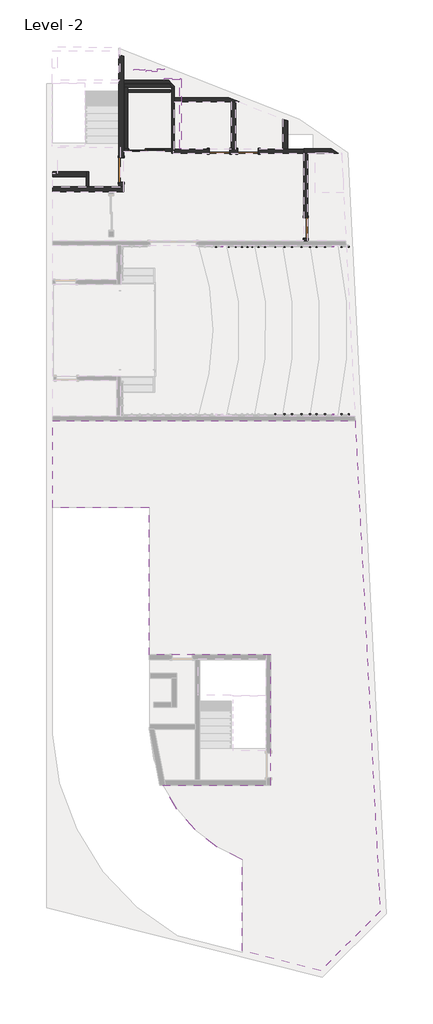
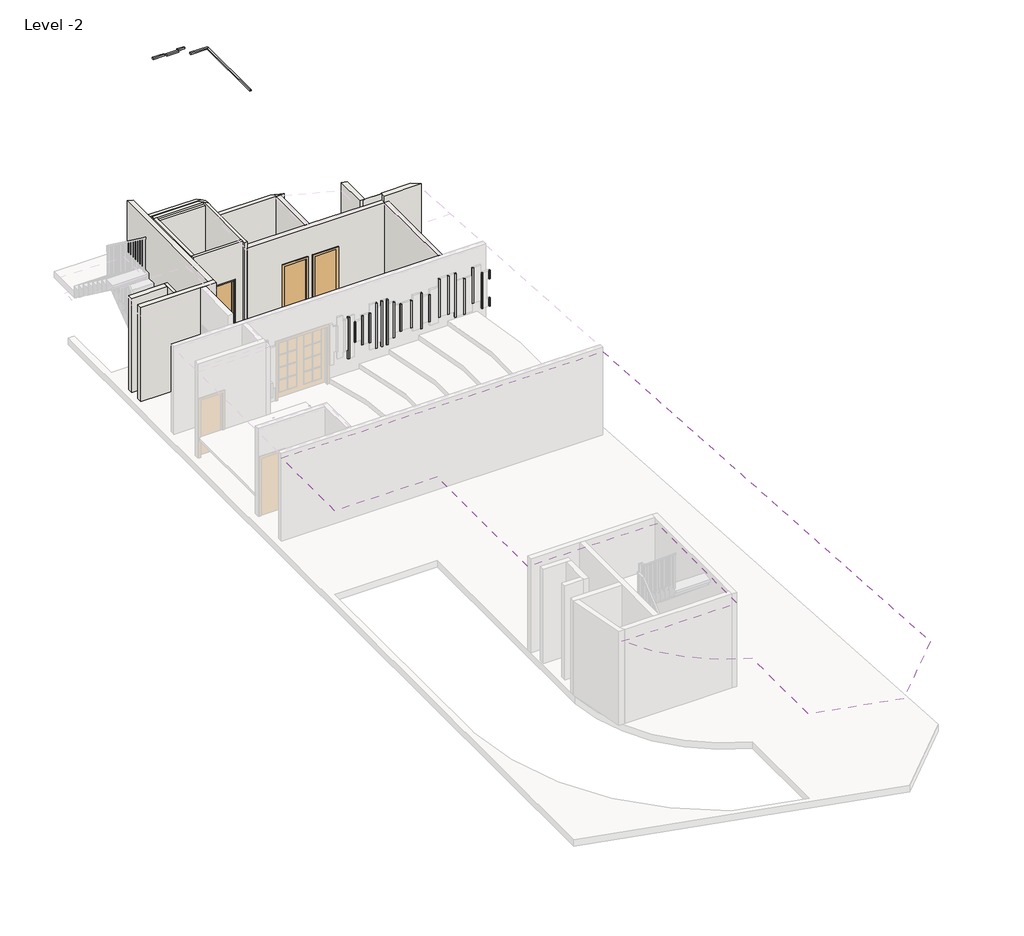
# One storey, part 4 of 6: 34 proxies, 17 walls, 5 doors, 1 covering.
"""IFC4 building model written with IfcOpenShell, lengths in millimetres."""

from ifc_helpers import new_model, si_unit, point, frame, frame_2d, origin, place, context, project, spatial, polyline, circle_curve, trimmed, segment, composite_curve, outline, extrude, faceted_brep, transform, mapped, element, save
from components import m_single_flush_0762_x_2134mm_6e0fa8c7, m_single_flush_0762_x_2134mm_89ae47f1, m_single_flush_0762_x_2134mm_1533e4c5, m_single_flush_0915_x_2134mm_5c733ab1, sliding_door_2_panel_aus_ee5771a8

model = new_model("IFC4")

# Units and contexts
model_context = context("Model", 3, world=origin())
ifc_project = project(units=[si_unit("LENGTHUNIT", "METRE", prefix="MILLI")], contexts=[model_context])

# Site, building, storey
site = spatial("IfcSite", under=ifc_project)
building = spatial("IfcBuilding", under=site)
storey = spatial("IfcBuildingStorey", under=building, Name="Level -2", Elevation=-7000.0)

# Proxies
placement = place(None, origin())
element("IfcBuildingElementProxy", 1, Name="Reveal", ObjectType="Reveal", at=placement, inside=storey, context=model_context, shape_type="SweptSolid", body=[
    extrude(outline(polyline([(2988.093022, 13051.3286894), (2988.093022, 13101.3286894), (3389.832395, 13101.3286894), (3389.832395, 13051.3286894), (2988.093022, 13051.3286894)])), frame((0.0, 0.0, 1910.8841872), z_axis=(0.0, 0.0, 1.0), x_axis=(1.0, 0.0, 0.0)), (0.0, 0.0, 1.0), 50.0),
])
element("IfcBuildingElementProxy", 2, Name="Reveal", ObjectType="Reveal", at=placement, inside=storey, context=model_context, shape_type="SweptSolid", body=[
    extrude(outline(polyline([(3439.832395, 13006.9409286), (3439.832395, 13056.9409286), (3860.156273, 13056.9409286), (3860.156273, 13006.9409286), (3439.832395, 13006.9409286)])), frame((0.0, 0.0, 1910.8841872), z_axis=(0.0, 0.0, 1.0), x_axis=(1.0, 0.0, 0.0)), (0.0, 0.0, 1.0), 50.0),
])
element("IfcBuildingElementProxy", 3, Name="Reveal", ObjectType="Reveal", at=placement, inside=storey, context=model_context, shape_type="SweptSolid", body=[
    extrude(outline(polyline([(3860.156273, 13071.3286894), (3860.156273, 13121.3286894), (4110.156273, 13121.3286894), (4110.156273, 13071.3286894), (3860.156273, 13071.3286894)])), frame((0.0, 0.0, 1910.8841872), z_axis=(0.0, 0.0, 1.0), x_axis=(1.0, 0.0, 0.0)), (0.0, 0.0, 1.0), 50.0),
])
element("IfcBuildingElementProxy", 4, Name="Reveal", ObjectType="Reveal", at=placement, inside=storey, context=model_context, shape_type="SweptSolid", body=[
    extrude(outline(polyline([(4110.156273, 12706.9436225), (4110.156273, 12756.9436225), (4720.156273, 12756.9436225), (4720.156273, 12706.9436225), (4110.156273, 12706.9436225)])), frame((0.0, 0.0, 1910.8841872), z_axis=(0.0, 0.0, 1.0), x_axis=(1.0, 0.0, 0.0)), (0.0, 0.0, 1.0), 50.0),
])
element("IfcBuildingElementProxy", 5, Name="Reveal", ObjectType="Reveal", at=placement, inside=storey, context=model_context, shape_type="SweptSolid", body=[
    extrude(outline(polyline([(4695.156273, 12731.9436225), (4745.156273, 12731.9436225), (4745.156273, 10131.7405588), (4695.156273, 10131.7405588), (4695.156273, 12731.9436225)])), frame((0.0, 0.0, 1905.8841872), z_axis=(0.0, 0.0, 1.0), x_axis=(1.0, 0.0, 0.0)), (0.0, 0.0, 1.0), 50.0),
])
element("IfcBuildingElementProxy", 6, Name="Reveal", ObjectType="Reveal", at=placement, inside=storey, context=model_context, shape_type="SweptSolid", body=[
    extrude(outline(polyline([(8232.3539947, 180.1293333), (8232.3539947, 230.1293333), (8282.3539947, 230.1293333), (8282.3539947, 180.1293333), (8232.3539947, 180.1293333)])), frame((0.0, 0.0, -5890.7275331), z_axis=(0.0, 0.0, 1.0), x_axis=(1.0, 0.0, 0.0)), (0.0, 0.0, 1.0), 1000.0),
])
element("IfcBuildingElementProxy", 7, Name="Reveal", ObjectType="Reveal", at=placement, inside=storey, context=model_context, shape_type="SweptSolid", body=[
    extrude(outline(polyline([(8577.0430077, 180.1293333), (8577.0430077, 230.1293333), (8627.0430077, 230.1293333), (8627.0430077, 180.1293333), (8577.0430077, 180.1293333)])), frame((0.0, 0.0, -6050.7275331), z_axis=(0.0, 0.0, 1.0), x_axis=(1.0, 0.0, 0.0)), (0.0, 0.0, 1.0), 1320.0),
])
element("IfcBuildingElementProxy", 8, Name="Reveal", ObjectType="Reveal", at=placement, inside=storey, context=model_context, shape_type="SweptSolid", body=[
    extrude(outline(polyline([(8857.0430077, 180.1293333), (8857.0430077, 230.1293333), (8907.0430077, 230.1293333), (8907.0430077, 180.1293333), (8857.0430077, 180.1293333)])), frame((0.0, 0.0, -5890.7275331), z_axis=(0.0, 0.0, 1.0), x_axis=(1.0, 0.0, 0.0)), (0.0, 0.0, 1.0), 1000.0),
])
element("IfcBuildingElementProxy", 9, Name="Reveal", ObjectType="Reveal", at=placement, inside=storey, context=model_context, shape_type="SweptSolid", body=[
    extrude(outline(polyline([(9532.3539947, 180.1293333), (9532.3539947, 230.1293333), (9582.3539947, 230.1293333), (9582.3539947, 180.1293333), (9532.3539947, 180.1293333)])), frame((0.0, 0.0, -5850.7275331), z_axis=(0.0, 0.0, 1.0), x_axis=(1.0, 0.0, 0.0)), (0.0, 0.0, 1.0), 1420.0),
])
element("IfcBuildingElementProxy", 10, Name="Reveal", ObjectType="Reveal", at=placement, inside=storey, context=model_context, shape_type="SweptSolid", body=[
    extrude(outline(polyline([(9212.3539947, 180.1293333), (9212.3539947, 230.1293333), (9262.3539947, 230.1293333), (9262.3539947, 180.1293333), (9212.3539947, 180.1293333)])), frame((0.0, 0.0, -5850.7275331), z_axis=(0.0, 0.0, 1.0), x_axis=(1.0, 0.0, 0.0)), (0.0, 0.0, 1.0), 1420.0),
])
element("IfcBuildingElementProxy", 11, Name="Reveal", ObjectType="Reveal", at=placement, inside=storey, context=model_context, shape_type="SweptSolid", body=[
    extrude(outline(polyline([(10392.3539947, 180.1293333), (10392.3539947, 230.1293333), (10442.3539947, 230.1293333), (10442.3539947, 180.1293333), (10392.3539947, 180.1293333)])), frame((0.0, 0.0, -5750.7275331), z_axis=(0.0, 0.0, 1.0), x_axis=(1.0, 0.0, 0.0)), (0.0, 0.0, 1.0), 1320.0),
])
element("IfcBuildingElementProxy", 12, Name="Reveal", ObjectType="Reveal", at=placement, inside=storey, context=model_context, shape_type="SweptSolid", body=[
    extrude(outline(polyline([(10092.3539947, 180.1293333), (10092.3539947, 230.1293333), (10142.3539947, 230.1293333), (10142.3539947, 180.1293333), (10092.3539947, 180.1293333)])), frame((0.0, 0.0, -6050.7275331), z_axis=(0.0, 0.0, 1.0), x_axis=(1.0, 0.0, 0.0)), (0.0, 0.0, 1.0), 1320.0),
])
element("IfcBuildingElementProxy", 13, Name="Reveal", ObjectType="Reveal", at=placement, inside=storey, context=model_context, shape_type="SweptSolid", body=[
    extrude(outline(polyline([(9777.0430077, 180.1293333), (9777.0430077, 230.1293333), (9827.0430077, 230.1293333), (9827.0430077, 180.1293333), (9777.0430077, 180.1293333)])), frame((0.0, 0.0, -6050.7275331), z_axis=(0.0, 0.0, 1.0), x_axis=(1.0, 0.0, 0.0)), (0.0, 0.0, 1.0), 1620.0),
])
element("IfcBuildingElementProxy", 14, Name="Reveal", ObjectType="Reveal", at=placement, inside=storey, context=model_context, shape_type="SweptSolid", body=[
    extrude(outline(polyline([(10712.3539947, 180.1293333), (10712.3539947, 230.1293333), (10762.3539947, 230.1293333), (10762.3539947, 180.1293333), (10712.3539947, 180.1293333)])), frame((0.0, 0.0, -6050.7275331), z_axis=(0.0, 0.0, 1.0), x_axis=(1.0, 0.0, 0.0)), (0.0, 0.0, 1.0), 1320.0),
])
element("IfcBuildingElementProxy", 15, Name="Reveal", ObjectType="Reveal", at=placement, inside=storey, context=model_context, shape_type="SweptSolid", body=[
    extrude(outline(polyline([(10977.0430077, 180.1293333), (10977.0430077, 230.1293333), (11027.0430077, 230.1293333), (11027.0430077, 180.1293333), (10977.0430077, 180.1293333)])), frame((0.0, 0.0, -6050.7275331), z_axis=(0.0, 0.0, 1.0), x_axis=(1.0, 0.0, 0.0)), (0.0, 0.0, 1.0), 1320.0),
])
element("IfcBuildingElementProxy", 16, Name="Reveal", ObjectType="Reveal", at=placement, inside=storey, context=model_context, shape_type="SweptSolid", body=[
    extrude(outline(polyline([(6762.0430077, 6497.7142109), (6812.0430077, 6497.7142109), (6812.0430077, 6447.7142109), (6762.0430077, 6447.7142109), (6762.0430077, 6497.7142109)])), frame((0.0, 0.0, -5930.7275331), z_axis=(0.0, 0.0, 1.0), x_axis=(1.0, 0.0, 0.0)), (0.0, 0.0, 1.0), 1080.0),
])
element("IfcBuildingElementProxy", 17, Name="Reveal", ObjectType="Reveal", at=placement, inside=storey, context=model_context, shape_type="SweptSolid", body=[
    extrude(outline(polyline([(7197.0430077, 6497.7142109), (7247.0430077, 6497.7142109), (7247.0430077, 6447.7142109), (7197.0430077, 6447.7142109), (7197.0430077, 6497.7142109)])), frame((0.0, 0.0, -6230.7275331), z_axis=(0.0, 0.0, 1.0), x_axis=(1.0, 0.0, 0.0)), (0.0, 0.0, 1.0), 1680.0),
])
element("IfcBuildingElementProxy", 18, Name="Reveal", ObjectType="Reveal", at=placement, inside=storey, context=model_context, shape_type="SweptSolid", body=[
    extrude(outline(polyline([(6997.0430077, 6497.7142109), (7047.0430077, 6497.7142109), (7047.0430077, 6447.7142109), (6997.0430077, 6447.7142109), (6997.0430077, 6497.7142109)])), frame((0.0, 0.0, -6230.7275331), z_axis=(0.0, 0.0, 1.0), x_axis=(1.0, 0.0, 0.0)), (0.0, 0.0, 1.0), 1680.0),
])
element("IfcBuildingElementProxy", 19, Name="Reveal", ObjectType="Reveal", at=placement, inside=storey, context=model_context, shape_type="SweptSolid", body=[
    extrude(outline(polyline([(6502.3539947, 6497.7142109), (6552.3539947, 6497.7142109), (6552.3539947, 6447.7142109), (6502.3539947, 6447.7142109), (6502.3539947, 6497.7142109)])), frame((0.0, 0.0, -5930.7275331), z_axis=(0.0, 0.0, 1.0), x_axis=(1.0, 0.0, 0.0)), (0.0, 0.0, 1.0), 1080.0),
])
element("IfcBuildingElementProxy", 20, Name="Reveal", ObjectType="Reveal", at=placement, inside=storey, context=model_context, shape_type="SweptSolid", body=[
    extrude(outline(polyline([(6252.0430077, 6497.7142109), (6302.0430077, 6497.7142109), (6302.0430077, 6447.7142109), (6252.0430077, 6447.7142109), (6252.0430077, 6497.7142109)])), frame((0.0, 0.0, -5750.7275331), z_axis=(0.0, 0.0, 1.0), x_axis=(1.0, 0.0, 0.0)), (0.0, 0.0, 1.0), 760.0),
])
element("IfcBuildingElementProxy", 21, Name="Reveal", ObjectType="Reveal", at=placement, inside=storey, context=model_context, shape_type="SweptSolid", body=[
    extrude(outline(polyline([(6027.0430077, 6497.7142109), (6077.0430077, 6497.7142109), (6077.0430077, 6447.7142109), (6027.0430077, 6447.7142109), (6027.0430077, 6497.7142109)])), frame((0.0, 0.0, -6282.0582782), z_axis=(0.0, 0.0, 1.0), x_axis=(1.0, 0.0, 0.0)), (0.0, 0.0, 1.0), 1551.3307451),
])
element("IfcBuildingElementProxy", 22, Name="Reveal", ObjectType="Reveal", at=placement, inside=storey, context=model_context, shape_type="SweptSolid", body=[
    extrude(outline(polyline([(7612.3539947, 6497.7142109), (7662.3539947, 6497.7142109), (7662.3539947, 6447.7142109), (7612.3539947, 6447.7142109), (7612.3539947, 6497.7142109)])), frame((0.0, 0.0, -6050.7275331), z_axis=(0.0, 0.0, 1.0), x_axis=(1.0, 0.0, 0.0)), (0.0, 0.0, 1.0), 1320.0),
])
element("IfcBuildingElementProxy", 23, Name="Reveal", ObjectType="Reveal", at=placement, inside=storey, context=model_context, shape_type="SweptSolid", body=[
    extrude(outline(polyline([(7377.0430077, 6497.7142109), (7427.0430077, 6497.7142109), (7427.0430077, 6447.7142109), (7377.0430077, 6447.7142109), (7377.0430077, 6497.7142109)])), frame((0.0, 0.0, -6230.7275331), z_axis=(0.0, 0.0, 1.0), x_axis=(1.0, 0.0, 0.0)), (0.0, 0.0, 1.0), 1680.0),
])
element("IfcBuildingElementProxy", 24, Name="Reveal", ObjectType="Reveal", at=placement, inside=storey, context=model_context, shape_type="SweptSolid", body=[
    extrude(outline(polyline([(7852.3539947, 6497.7142109), (7902.3539947, 6497.7142109), (7902.3539947, 6447.7142109), (7852.3539947, 6447.7142109), (7852.3539947, 6497.7142109)])), frame((0.0, 0.0, -5890.7275331), z_axis=(0.0, 0.0, 1.0), x_axis=(1.0, 0.0, 0.0)), (0.0, 0.0, 1.0), 1000.0),
])
element("IfcBuildingElementProxy", 25, Name="Reveal", ObjectType="Reveal", at=placement, inside=storey, context=model_context, shape_type="SweptSolid", body=[
    extrude(outline(polyline([(8232.3539947, 6497.7142109), (8282.3539947, 6497.7142109), (8282.3539947, 6447.7142109), (8232.3539947, 6447.7142109), (8232.3539947, 6497.7142109)])), frame((0.0, 0.0, -5890.7275331), z_axis=(0.0, 0.0, 1.0), x_axis=(1.0, 0.0, 0.0)), (0.0, 0.0, 1.0), 1000.0),
])
element("IfcBuildingElementProxy", 26, Name="Reveal", ObjectType="Reveal", at=placement, inside=storey, context=model_context, shape_type="SweptSolid", body=[
    extrude(outline(polyline([(8577.0430077, 6497.7142109), (8627.0430077, 6497.7142109), (8627.0430077, 6447.7142109), (8577.0430077, 6447.7142109), (8577.0430077, 6497.7142109)])), frame((0.0, 0.0, -6050.7275331), z_axis=(0.0, 0.0, 1.0), x_axis=(1.0, 0.0, 0.0)), (0.0, 0.0, 1.0), 1320.0),
])
element("IfcBuildingElementProxy", 27, Name="Reveal", ObjectType="Reveal", at=placement, inside=storey, context=model_context, shape_type="SweptSolid", body=[
    extrude(outline(polyline([(8857.0430077, 6497.7142109), (8907.0430077, 6497.7142109), (8907.0430077, 6447.7142109), (8857.0430077, 6447.7142109), (8857.0430077, 6497.7142109)])), frame((0.0, 0.0, -5890.7275331), z_axis=(0.0, 0.0, 1.0), x_axis=(1.0, 0.0, 0.0)), (0.0, 0.0, 1.0), 1000.0),
])
element("IfcBuildingElementProxy", 28, Name="Reveal", ObjectType="Reveal", at=placement, inside=storey, context=model_context, shape_type="SweptSolid", body=[
    extrude(outline(polyline([(9532.3539947, 6497.7142109), (9582.3539947, 6497.7142109), (9582.3539947, 6447.7142109), (9532.3539947, 6447.7142109), (9532.3539947, 6497.7142109)])), frame((0.0, 0.0, -5850.7275331), z_axis=(0.0, 0.0, 1.0), x_axis=(1.0, 0.0, 0.0)), (0.0, 0.0, 1.0), 1420.0),
])
element("IfcBuildingElementProxy", 29, Name="Reveal", ObjectType="Reveal", at=placement, inside=storey, context=model_context, shape_type="SweptSolid", body=[
    extrude(outline(polyline([(9212.3539947, 6497.7142109), (9262.3539947, 6497.7142109), (9262.3539947, 6447.7142109), (9212.3539947, 6447.7142109), (9212.3539947, 6497.7142109)])), frame((0.0, 0.0, -5850.7275331), z_axis=(0.0, 0.0, 1.0), x_axis=(1.0, 0.0, 0.0)), (0.0, 0.0, 1.0), 1420.0),
])
element("IfcBuildingElementProxy", 30, Name="Reveal", ObjectType="Reveal", at=placement, inside=storey, context=model_context, shape_type="SweptSolid", body=[
    extrude(outline(polyline([(10392.3539947, 6497.7142109), (10442.3539947, 6497.7142109), (10442.3539947, 6447.7142109), (10392.3539947, 6447.7142109), (10392.3539947, 6497.7142109)])), frame((0.0, 0.0, -5750.7275331), z_axis=(0.0, 0.0, 1.0), x_axis=(1.0, 0.0, 0.0)), (0.0, 0.0, 1.0), 1320.0),
])
element("IfcBuildingElementProxy", 31, Name="Reveal", ObjectType="Reveal", at=placement, inside=storey, context=model_context, shape_type="SweptSolid", body=[
    extrude(outline(polyline([(10092.3539947, 6497.7142109), (10142.3539947, 6497.7142109), (10142.3539947, 6447.7142109), (10092.3539947, 6447.7142109), (10092.3539947, 6497.7142109)])), frame((0.0, 0.0, -6050.7275331), z_axis=(0.0, 0.0, 1.0), x_axis=(1.0, 0.0, 0.0)), (0.0, 0.0, 1.0), 1320.0),
])
element("IfcBuildingElementProxy", 32, Name="Reveal", ObjectType="Reveal", at=placement, inside=storey, context=model_context, shape_type="SweptSolid", body=[
    extrude(outline(polyline([(9777.0430077, 6497.7142109), (9827.0430077, 6497.7142109), (9827.0430077, 6447.7142109), (9777.0430077, 6447.7142109), (9777.0430077, 6497.7142109)])), frame((0.0, 0.0, -6050.7275331), z_axis=(0.0, 0.0, 1.0), x_axis=(1.0, 0.0, 0.0)), (0.0, 0.0, 1.0), 1620.0),
])
element("IfcBuildingElementProxy", 33, Name="Reveal", ObjectType="Reveal", at=placement, inside=storey, context=model_context, shape_type="SweptSolid", body=[
    extrude(outline(polyline([(10712.3539947, 6497.7142109), (10762.3539947, 6497.7142109), (10762.3539947, 6447.7142109), (10712.3539947, 6447.7142109), (10712.3539947, 6497.7142109)])), frame((0.0, 0.0, -6050.7275331), z_axis=(0.0, 0.0, 1.0), x_axis=(1.0, 0.0, 0.0)), (0.0, 0.0, 1.0), 1320.0),
])
element("IfcBuildingElementProxy", 34, Name="Reveal", ObjectType="Reveal", at=placement, inside=storey, context=model_context, shape_type="SweptSolid", body=[
    extrude(outline(polyline([(10977.0430077, 6497.7142109), (11027.0430077, 6497.7142109), (11027.0430077, 6447.7142109), (10977.0430077, 6447.7142109), (10977.0430077, 6497.7142109)])), frame((0.0, 0.0, -5030.7275331), z_axis=(0.0, 0.0, 1.0), x_axis=(1.0, 0.0, 0.0)), (0.0, 0.0, 1.0), 300.0),
    extrude(outline(polyline([(10977.0430077, 6497.7142109), (11027.0430077, 6497.7142109), (11027.0430077, 6447.7142109), (10977.0430077, 6447.7142109), (10977.0430077, 6497.7142109)])), frame((0.0, 0.0, -6050.7275331), z_axis=(0.0, 0.0, 1.0), x_axis=(1.0, 0.0, 0.0)), (0.0, 0.0, 1.0), 300.0),
])

# Covering
element("IfcCovering", 35, ObjectType="600 x 600mm Grid", at=placement, inside=storey, context=model_context, shape_type="SweptSolid", body=[
    extrude(outline(composite_curve([segment(polyline([(5269.992527, -11355.2406086), (3571.3264677, -11355.2406086)]), True, "CONTINUOUS"), segment(trimmed(circle_curve(frame_2d((8170.7225142, -11738.0751988)), 4615.3013245), [point((3571.3264677, -11355.2406086))], [point((3555.542833, -11704.5666067))], True, "CARTESIAN"), True, "CONTINUOUS"), segment(trimmed(circle_curve(frame_2d((9044.1542392, -11277.4219597)), 5505.2073274), [point((3555.542833, -11704.5666067))], [point((3549.4089841, -11616.6597812))], False, "CARTESIAN"), True, "CONTINUOUS"), segment(polyline([(3549.4089841, -11616.6597812), (3549.4089841, -8940.5298497), (5269.992527, -8940.5298497), (5269.992527, -11355.2406086)]), True, "CONTINUOUS")], self_intersect=False), holes=[polyline([(4578.6875281, -9450.0867626), (3601.2929486, -9450.0867626), (3601.2929486, -9630.0867626), (4398.6875281, -9630.0867626), (4398.6875281, -10530.0867626), (3731.2929486, -10530.0867626), (3731.2929486, -10710.0867626), (4578.6875281, -10710.0867626), (4578.6875281, -9450.0867626)])]), frame((0.0, 0.0, -3900.0), z_axis=(0.0, 0.0, 1.0), x_axis=(1.0, 0.0, 0.0)), (0.0, 0.0, 1.0), 52.0),
    extrude(outline(composite_curve([segment(polyline([(8099.9667664, -8760.5298497), (3549.4089841, -8760.5298497), (3549.4089841, -3268.2489802), (-50.0290025, -3268.2489802), (-50.0290025, -18.4885858), (11241.3101786, -18.4885858), (12173.3240767, -18328.8747695), (9953.7454338, -20548.4534124), (7033.8183565, -19810.3775142), (7033.8183565, -16402.4446286)]), True, "CONTINUOUS"), segment(trimmed(circle_curve(frame_2d((9044.1542392, -11277.4219597)), 5505.2073274), [point((7033.8183565, -16402.4446286))], [point((4061.0616495, -13617.5279318))], False, "CARTESIAN"), True, "CONTINUOUS"), segment(polyline([(4061.0616495, -13617.5279318), (8099.9667664, -13617.5279318), (8099.9667664, -8760.5298497)]), True, "CONTINUOUS")], self_intersect=False)), frame((0.0, 0.0, -3900.0), z_axis=(0.0, 0.0, 1.0), x_axis=(1.0, 0.0, 0.0)), (0.0, 0.0, 1.0), 52.0),
    extrude(outline(composite_curve([segment(polyline([(4507.019012, -19171.6733115), (-50.0290025, -18019.7790287), (-50.0290025, -11725.3411962)]), True, "CONTINUOUS"), segment(trimmed(circle_curve(frame_2d((9044.1542392, -11277.4219597)), 9105.2073274), [point((-50.0290025, -11725.3411962))], [point((4507.019012, -19171.6733115))], True, "CARTESIAN"), True, "CONTINUOUS")], self_intersect=False)), frame((0.0, 0.0, -3900.0), z_axis=(0.0, 0.0, 1.0), x_axis=(1.0, 0.0, 0.0)), (0.0, 0.0, 1.0), 52.0),
])

# Doors
m_single_flush_0762_x_2134mm_shape = m_single_flush_0762_x_2134mm_6e0fa8c7(model_context)
element("IfcDoor", 36, ObjectType="M_Single-Flush : 0762 x 2134mm", at=placement, inside=storey, context=model_context, shape_type="MappedRepresentation", body=[
    mapped(m_single_flush_0762_x_2134mm_shape, transform((6181.6888444, 10034.899122, -7000.0), x_axis=(1.0, 0.0, 0.0), y_axis=(0.0, 1.0, 0.0), z_axis=(0.0, 0.0, 1.0))),
])
m_single_flush_0762_x_2134mm_2_shape = m_single_flush_0762_x_2134mm_89ae47f1(model_context)
element("IfcDoor", 37, ObjectType="M_Single-Flush : 0762 x 2134mm", at=placement, inside=storey, context=model_context, shape_type="MappedRepresentation", body=[
    mapped(m_single_flush_0762_x_2134mm_2_shape, transform((7243.6888444, 10034.899122, -7000.0), x_axis=(-1.0, 0.0, 0.0), y_axis=(0.0, -1.0, 0.0), z_axis=(0.0, 0.0, 1.0))),
])
m_single_flush_0762_x_2134mm_3_shape = m_single_flush_0762_x_2134mm_1533e4c5(model_context)
element("IfcDoor", 38, ObjectType="M_Single-Flush : 0762 x 2134mm", at=placement, inside=storey, context=model_context, shape_type="MappedRepresentation", body=[
    mapped(m_single_flush_0762_x_2134mm_3_shape, transform((9401.0873915, 7167.33213, -7000.0), x_axis=(0.0, -1.0, 0.0), y_axis=(1.0, 0.0, 0.0), z_axis=(0.0, 0.0, 1.0))),
])
m_single_flush_0915_x_2134mm_shape = m_single_flush_0915_x_2134mm_5c733ab1(model_context)
element("IfcDoor", 39, ObjectType="M_Single-Flush : 0915 x 2134mm", at=placement, inside=storey, context=model_context, shape_type="MappedRepresentation", body=[
    mapped(m_single_flush_0915_x_2134mm_shape, transform((2509.6668671, 9329.4436159, -7000.0), x_axis=(0.0, -1.0, 0.0), y_axis=(1.0, 0.0, 0.0), z_axis=(0.0, 0.0, 1.0))),
])
sliding_door_2_panel_aus_shape = sliding_door_2_panel_aus_ee5771a8(model_context)
element("IfcDoor", 40, ObjectType="Sliding Door - 2 Panel (AUS) : elavator door", at=placement, inside=storey, context=model_context, shape_type="MappedRepresentation", body=[
    mapped(sliding_door_2_panel_aus_shape, transform((3525.434997, 10081.9436225, -7000.0), x_axis=(-1.0, 0.0, 0.0), y_axis=(0.0, -1.0, 0.0), z_axis=(0.0, 0.0, 1.0))),
])

# Walls
element("IfcWall", 41, ObjectType="Generic - 18cm-gypsu-2boith 2", at=placement, inside=storey, context=model_context, shape_type="Brep", body=[
    faceted_brep([(2419.6668671, 8871.9436159, -4866.0), (2419.6668671, 8871.9436159, -7000.0), (2419.6668671, 8711.9436159, -7000.0), (2419.6668671, 8711.9436159, -3500.0), (2419.6668671, 13644.4416764, -3500.0), (2419.6668671, 13644.4416764, -7000.0), (2419.6668671, 9786.9436159, -7000.0), (2419.6668671, 9786.9436159, -4866.0), (2599.6668671, 8711.9436159, -7000.0), (2599.6668671, 8871.9436159, -7000.0), (2599.6668671, 8871.9436159, -4866.0), (2599.6668671, 9786.9436159, -4866.0), (2599.6668671, 9786.9436159, -7000.0), (2599.6668671, 13573.7027314, -7000.0), (2599.6668671, 13573.7027314, -3500.0), (2599.6668671, 8711.9436159, -3500.0)], [[[0, 1, 2, 3, 4, 5, 6, 7]], [[8, 9, 10, 11, 12, 13, 14, 15]], [[6, 5, 13, 12]], [[2, 1, 9, 8]], [[4, 3, 15, 14]], [[3, 2, 8, 15]], [[10, 9, 1, 0]], [[11, 10, 0, 7]], [[12, 11, 7, 6]], [[5, 4, 14, 13]]]),
])
element("IfcWall", 42, ObjectType="Generic - 18cm-gypsu-2boith 2", at=placement, inside=storey, context=model_context, shape_type="Brep", body=[
    faceted_brep([(2599.6668671, 8711.9436159, -7000.0), (2419.6668671, 8711.9436159, -7000.0), (-50.0290025, 8711.9436159, -7000.0), (-50.0290025, 8711.9436159, -3500.0), (2419.6668671, 8711.9436159, -3500.0), (2599.6668671, 8711.9436159, -3500.0), (2599.6668671, 8531.9436159, -7000.0), (2599.6668671, 8531.9436159, -3500.0), (2224.7837288, 8531.9436159, -3500.0), (2044.7837288, 8531.9436159, -3500.0), (-50.0290025, 8531.9436159, -3500.0), (-50.0290025, 8531.9436159, -7000.0), (2044.7837288, 8531.9436159, -7000.0), (2224.7837288, 8531.9436159, -7000.0)], [[[0, 1, 2, 3, 4, 5]], [[6, 7, 8, 9, 10, 11, 12, 13]], [[2, 1, 0, 6, 13, 12, 11]], [[5, 4, 3, 10, 9, 8, 7]], [[0, 5, 7, 6]], [[3, 2, 11, 10]]]),
])
element("IfcWall", 43, ObjectType="Generic - 10cm-gypsu-2boith", at=placement, inside=storey, context=model_context, shape_type="Brep", body=[
    faceted_brep([(1198.6625691, 9269.4957276, -7000.0), (1198.6625691, 9089.4957276, -7000.0), (1198.6625691, 8731.9436159, -7000.0), (1198.6625691, 8731.9436159, -3500.0), (1198.6625691, 9089.4957276, -3500.0), (1198.6625691, 9269.4957276, -3500.0), (1298.6625691, 9269.4957276, -7000.0), (1298.6625691, 9269.4957276, -3500.0), (1298.6625691, 8731.9436159, -3500.0), (1298.6625691, 8731.9436159, -7000.0)], [[[0, 1, 2, 3, 4, 5]], [[6, 7, 8, 9]], [[2, 1, 0, 6, 9]], [[3, 2, 9, 8]], [[5, 4, 3, 8, 7]], [[0, 5, 7, 6]]]),
])
element("IfcWall", 44, ObjectType="Generic - 18cm-gypsu-2boith 2", at=placement, inside=storey, context=model_context, shape_type="SweptSolid", body=[
    extrude(outline(polyline([(1198.6625691, 9089.4957276), (-50.0290025, 9089.4957276), (-50.0290025, 9269.4957276), (1198.6625691, 9269.4957276), (1198.6625691, 9089.4957276)])), frame((0.0, 0.0, -7000.0), z_axis=(0.0, 0.0, 1.0), x_axis=(1.0, 0.0, 0.0)), (0.0, 0.0, 1.0), 3500.0),
])
element("IfcWall", 45, ObjectType="Generic - 10cm-gypsu-2boith", at=placement, inside=storey, context=model_context, shape_type="Brep", body=[
    faceted_brep([(4399.6302337, 10031.9436225, -3500.0), (2649.6769958, 10031.9436225, -3500.0), (2649.6769958, 10031.9436225, -7000.0), (2749.6769958, 10031.9436225, -7000.0), (2749.6769958, 10031.9436225, -4817.0), (4129.6769958, 10031.9436225, -4817.0), (4129.6769958, 10031.9436225, -7000.0), (4399.6302337, 10031.9436225, -7000.0), (2649.6769958, 10131.9436225, -3500.0), (2749.6769958, 10131.9436225, -3500.0), (4399.6302337, 10131.9436225, -3500.0), (4399.6302337, 10131.9436225, -7000.0), (4129.6769958, 10131.9436225, -7000.0), (4129.6769958, 10131.9436225, -4817.0), (2749.6769958, 10131.9436225, -4817.0), (2749.6769958, 10131.9436225, -7000.0), (2649.6769958, 10131.9436225, -7000.0)], [[[0, 1, 2, 3, 4, 5, 6, 7]], [[8, 9, 10, 11, 12, 13, 14, 15, 16]], [[2, 16, 15, 3]], [[11, 7, 6, 12]], [[1, 0, 10, 9, 8]], [[2, 1, 8, 16]], [[0, 7, 11, 10]], [[5, 13, 12, 6]], [[13, 5, 4, 14]], [[14, 4, 3, 15]]]),
])
element("IfcWall", 46, ObjectType="Generic - 10cm-gypsu-2boith", at=placement, inside=storey, context=model_context, shape_type="Brep", body=[
    faceted_brep([(4399.6302337, 12428.1995427, -7000.0), (4399.6302337, 10131.9436225, -7000.0), (4399.6302337, 10031.9436225, -7000.0), (4399.6302337, 9954.899122, -7000.0), (4399.6302337, 9954.899122, -3500.0), (4399.6302337, 10031.9436225, -3500.0), (4399.6302337, 10131.9436225, -3500.0), (4399.6302337, 12428.1995427, -3500.0), (4499.6302337, 12328.1995427, -7000.0), (4499.6302337, 12328.1995427, -3500.0), (4499.6302337, 12034.4782744, -3500.0), (4499.6302337, 11874.4782744, -3500.0), (4499.6302337, 10114.899122, -3500.0), (4499.6302337, 9954.899122, -3500.0), (4499.6302337, 9954.899122, -7000.0), (4499.6302337, 10114.899122, -7000.0), (4499.6302337, 11874.4782744, -7000.0), (4499.6302337, 12034.4782744, -7000.0)], [[[0, 1, 2, 3, 4, 5, 6, 7]], [[8, 9, 10, 11, 12, 13, 14, 15, 16, 17]], [[3, 2, 1, 0, 8, 17, 16, 15, 14]], [[7, 6, 5, 4, 13, 12, 11, 10, 9]], [[0, 7, 9, 8]], [[4, 3, 14, 13]]]),
])
element("IfcWall", 47, ObjectType="Generic - 10cm-gypsu-2boith", at=placement, inside=storey, context=model_context, shape_type="Brep", body=[
    faceted_brep([(2649.6769958, 12431.9436225, -7000.0), (2649.6769958, 10131.9436225, -7000.0), (2649.6769958, 10131.9436225, -3500.0), (2649.6769958, 12431.9436225, -3500.0), (2749.6769958, 12431.9436225, -7000.0), (2749.6769958, 12431.9436225, -3500.0), (2749.6769958, 12331.9436225, -3500.0), (2749.6769958, 12231.9436225, -3500.0), (2749.6769958, 10131.9436225, -3500.0), (2749.6769958, 10131.9436225, -7000.0), (2749.6769958, 12231.9436225, -7000.0), (2749.6769958, 12331.9436225, -7000.0)], [[[0, 1, 2, 3]], [[4, 5, 6, 7, 8, 9, 10, 11]], [[1, 0, 4, 11, 10, 9]], [[3, 2, 8, 7, 6, 5]], [[2, 1, 9, 8]], [[0, 3, 5, 4]]]),
])
element("IfcWall", 48, ObjectType="Generic - 10cm-gypsu-2boith", at=placement, inside=storey, context=model_context, shape_type="SweptSolid", body=[
    extrude(outline(polyline([(2749.6769958, 12331.9436225), (4349.6770254, 12331.9436225), (4349.6770254, 12231.9436225), (2749.6769958, 12231.9436225), (2749.6769958, 12331.9436225)])), frame((0.0, 0.0, -7000.0), z_axis=(0.0, 0.0, 1.0), x_axis=(1.0, 0.0, 0.0)), (0.0, 0.0, 1.0), 3500.0),
])
element("IfcWall", 49, ObjectType="Generic - 10cm-gypsu-2boith", at=placement, inside=storey, context=model_context, shape_type="Brep", body=[
    faceted_brep([(4295.8861539, 12531.9436225, -7000.0), (2649.6769958, 12531.9436225, -7000.0), (2649.6769958, 12531.9436225, -3500.0), (4295.8861539, 12531.9436225, -3500.0), (4395.8861539, 12431.9436225, -7000.0), (4395.8861539, 12431.9436225, -3500.0), (2749.6769958, 12431.9436225, -3500.0), (2649.6769958, 12431.9436225, -3500.0), (2649.6769958, 12431.9436225, -7000.0), (2749.6769958, 12431.9436225, -7000.0)], [[[0, 1, 2, 3]], [[4, 5, 6, 7, 8, 9]], [[1, 0, 4, 9, 8]], [[3, 2, 7, 6, 5]], [[0, 3, 5, 4]], [[2, 1, 8, 7]]]),
])
element("IfcWall", 50, ObjectType="Generic - 10cm-gypsu-2boith", at=placement, inside=storey, context=model_context, shape_type="Brep", body=[
    faceted_brep([(4287.3075102, 12681.9436225, -7000.0), (2600.9917149, 12681.9436225, -7000.0), (2600.9917149, 12681.9436225, -3500.0), (4287.3075102, 12681.9436225, -3500.0), (4387.3075102, 12581.9436225, -7000.0), (4387.3075102, 12581.9436225, -3500.0), (4245.8861539, 12581.9436225, -3500.0), (2600.9917149, 12581.9436225, -3500.0), (2600.9917149, 12581.9436225, -7000.0), (4245.8861539, 12581.9436225, -7000.0)], [[[0, 1, 2, 3]], [[4, 5, 6, 7, 8, 9]], [[1, 0, 4, 9, 8]], [[2, 1, 8, 7]], [[3, 2, 7, 6, 5]], [[0, 3, 5, 4]]]),
])
element("IfcWall", 51, ObjectType="Generic - 10cm-gypsu-2boith", at=placement, inside=storey, context=model_context, shape_type="Brep", body=[
    faceted_brep([(4499.6302337, 12469.6208989, -7000.0), (4387.3075102, 12581.9436225, -7000.0), (4387.3075102, 12581.9436225, -3500.0), (4499.6302337, 12469.6208989, -3500.0), (4499.6302337, 12328.1995427, -7000.0), (4499.6302337, 12328.1995427, -3500.0), (4399.6302337, 12428.1995427, -3500.0), (4395.8861539, 12431.9436225, -3500.0), (4295.8861539, 12531.9436225, -3500.0), (4245.8861539, 12581.9436225, -3500.0), (4245.8861539, 12581.9436225, -7000.0), (4295.8861539, 12531.9436225, -7000.0), (4395.8861539, 12431.9436225, -7000.0), (4399.6302337, 12428.1995427, -7000.0)], [[[0, 1, 2, 3]], [[4, 5, 6, 7, 8, 9, 10, 11, 12, 13]], [[1, 0, 4, 13, 12, 11, 10]], [[3, 2, 9, 8, 7, 6, 5]], [[2, 1, 10, 9]], [[0, 3, 5, 4]]]),
])
element("IfcWall", 52, ObjectType="Generic - 18cm-gypsu-2boith 2", at=placement, inside=storey, context=model_context, shape_type="Brep", body=[
    faceted_brep([(10352.7171453, 10134.899122, -7000.0), (9326.0873915, 10134.899122, -7000.0), (9326.0873915, 10134.899122, -3500.0), (10352.7171453, 10134.899122, -3500.0), (10612.1597204, 9954.899122, -7000.0), (10612.1597204, 9954.899122, -3500.0), (9326.0873915, 9954.899122, -3500.0), (9326.0873915, 9954.899122, -3741.0), (9326.0873915, 9954.899122, -7000.0), (9476.0873915, 9954.899122, -7000.0), (9326.0873915, 10114.899122, -7000.0), (9326.0873915, 10104.899122, -3500.0), (9326.0873915, 10114.899122, -3500.0)], [[[0, 1, 2, 3]], [[4, 5, 6, 7, 8, 9]], [[1, 0, 4, 9, 8, 10]], [[2, 1, 10, 8, 7, 6, 11, 12]], [[3, 2, 12, 11, 6, 5]], [[0, 3, 5, 4]]]),
])
element("IfcWall", 53, ObjectType="Generic - 18cm-gypsu-2boith 2", at=placement, inside=storey, context=model_context, shape_type="Brep", body=[
    faceted_brep([(8726.2956563, 10114.899122, -7000.0), (8726.2956563, 11165.973527, -7000.0), (8726.2956563, 11165.973527, -3500.0), (8726.2956563, 10114.899122, -3500.0), (8546.2956563, 10114.899122, -7000.0), (8546.2956563, 10114.899122, -3500.0), (8546.2956563, 11236.7124719, -3500.0), (8546.2956563, 11236.7124719, -7000.0), (8676.2956563, 10114.899122, -3500.0)], [[[0, 1, 2, 3]], [[4, 5, 6, 7]], [[1, 0, 4, 7]], [[3, 2, 6, 5, 8]], [[2, 1, 7, 6]], [[0, 3, 8, 5, 4]]]),
])
element("IfcWall", 54, ObjectType="Generic - 15cm-gypsu-2boith", at=placement, inside=storey, context=model_context, shape_type="SweptSolid", body=[
    extrude(outline(polyline([(6786.33213, -4866.0), (6786.33213, -7000.0), (6686.33213, -7000.0), (6686.33213, -3741.0), (9954.899122, -3741.0), (9954.899122, -7000.0), (7548.33213, -7000.0), (7548.33213, -4866.0), (6786.33213, -4866.0)])), frame((9326.0873915, 0.0, 0.0), z_axis=(1.0, 0.0, 0.0), x_axis=(0.0, 1.0, 0.0)), (0.0, 0.0, 1.0), 150.0),
])
element("IfcWall", 55, ObjectType="Generic - 20cm-granit2side", at=placement, inside=storey, context=model_context, shape_type="Brep", body=[
    faceted_brep([(9326.0873915, 10114.899122, -3500.0), (9326.0873915, 10114.899122, -7000.0), (8726.2956563, 10114.899122, -7000.0), (8546.2956563, 10114.899122, -7000.0), (7624.6888444, 10114.899122, -7000.0), (7624.6888444, 10114.899122, -4866.0), (6862.6888444, 10114.899122, -4866.0), (6862.6888444, 10114.899122, -7000.0), (6783.7193041, 10114.899122, -7000.0), (6623.7193041, 10114.899122, -7000.0), (6562.6888444, 10114.899122, -7000.0), (6562.6888444, 10114.899122, -4866.0), (5800.6888444, 10114.899122, -4866.0), (5800.6888444, 10114.899122, -7000.0), (4499.6302337, 10114.899122, -7000.0), (4499.6302337, 10114.899122, -3741.0), (6623.7193041, 10114.899122, -3741.0), (6783.7193041, 10114.899122, -3741.0), (8676.2956563, 10114.899122, -3741.0), (8676.2956563, 10114.899122, -3500.0), (8726.2956563, 10114.899122, -3500.0), (6562.6888444, 9954.899122, -4866.0), (6562.6888444, 9954.899122, -7000.0), (6862.6888444, 9954.899122, -7000.0), (6862.6888444, 9954.899122, -4866.0), (7624.6888444, 9954.899122, -4866.0), (7624.6888444, 9954.899122, -7000.0), (9326.0873915, 9954.899122, -7000.0), (9326.0873915, 9954.899122, -3741.0), (4499.6302337, 9954.899122, -3741.0), (4499.6302337, 9954.899122, -7000.0), (5800.6888444, 9954.899122, -7000.0), (5800.6888444, 9954.899122, -4866.0), (8676.2956563, 10104.899122, -3500.0), (9326.0873915, 10104.899122, -3500.0), (9326.0873915, 10104.899122, -3741.0), (8676.2956563, 10104.899122, -3741.0)], [[[0, 1, 2, 3, 4, 5, 6, 7, 8, 9, 10, 11, 12, 13, 14, 15, 16, 17, 18, 19, 20]], [[21, 22, 23, 24, 25, 26, 27, 28, 29, 30, 31, 32]], [[1, 27, 26, 4, 3, 2]], [[22, 10, 9, 8, 7, 23]], [[13, 31, 30, 14]], [[0, 20, 19, 33, 34]], [[1, 0, 34, 35, 28, 27]], [[11, 10, 22, 21]], [[12, 11, 21, 32]], [[13, 12, 32, 31]], [[24, 23, 7, 6]], [[25, 24, 6, 5]], [[26, 25, 5, 4]], [[14, 30, 29, 15]], [[35, 36, 18, 17, 16, 15, 29, 28]], [[36, 33, 19, 18]], [[33, 36, 35, 34]]]),
])
element("IfcWall", 56, ObjectType="Generic - 20cm-granit2side", at=placement, inside=storey, context=model_context, shape_type="SweptSolid", body=[
    extrude(outline(polyline([(6623.7193041, 10114.899122), (6623.7193041, 11992.2737097), (6783.7193041, 11929.3946475), (6783.7193041, 10114.899122), (6623.7193041, 10114.899122)])), frame((0.0, 0.0, -7000.0), z_axis=(0.0, 0.0, 1.0), x_axis=(1.0, 0.0, 0.0)), (0.0, 0.0, 1.0), 3259.0),
])
element("IfcWall", 57, ObjectType="Generic - 20cm-granit2side", at=placement, inside=storey, context=model_context, shape_type="SweptSolid", body=[
    extrude(outline(polyline([(4499.6302337, 12034.4782744), (6516.3269524, 12034.4782744), (6923.4577063, 11874.4782744), (4499.6302337, 11874.4782744), (4499.6302337, 12034.4782744)])), frame((0.0, 0.0, -7000.0), z_axis=(0.0, 0.0, 1.0), x_axis=(1.0, 0.0, 0.0)), (0.0, 0.0, 1.0), 3259.0),
])

save(model, "model.ifc")
